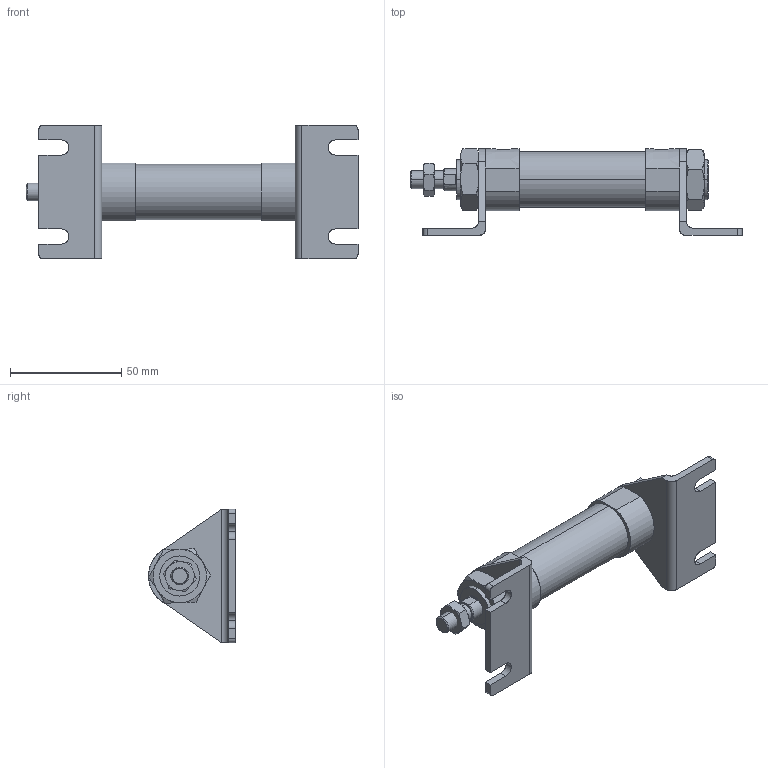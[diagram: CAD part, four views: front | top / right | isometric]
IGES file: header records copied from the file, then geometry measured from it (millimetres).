
Start section: SolidWorks IGES file using analytic representation for surfaces
Global section: file name: C:\Users\Toshiba\Desktop\J#2-20-25-L.IGS; native system: SolidWorks 2014; preprocessor: SolidWorks 2014; author: Toshiba; date: 160310.084827; units: millimetre
Bounding box: 149.2 x 39 x 60 mm (x, y, z)
Surface area: 27247 mm2 (no closed solid volume)
Topology: 0 solids, 0 shells, 168 faces, 2672 edges, 2672 vertices
Faces by surface type: bspline 110, revolution 58
